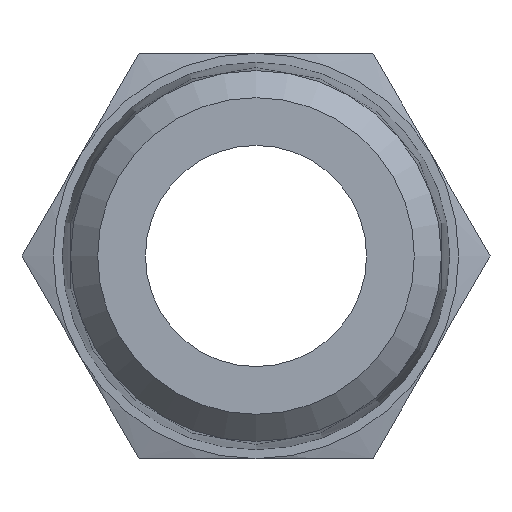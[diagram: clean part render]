
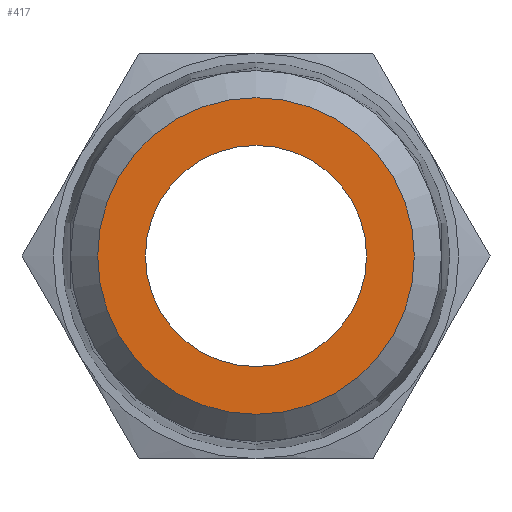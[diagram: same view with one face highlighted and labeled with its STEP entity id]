
A CAD part, left-side view. The second image highlights one B-rep face of the part: STEP entity #417.
In plain terms, the highlighted planar face has unit normal (-1, 0, 0).
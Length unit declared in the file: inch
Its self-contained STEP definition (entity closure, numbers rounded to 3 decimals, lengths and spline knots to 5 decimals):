
#37=PLANE('',#472);
#57=CIRCLE('',#473,0.26842);
#58=CIRCLE('',#474,0.1875);
#102=ORIENTED_EDGE('',*,*,#212,.F.);
#103=ORIENTED_EDGE('',*,*,#213,.T.);
#212=EDGE_CURVE('',#259,#259,#57,.T.);
#213=EDGE_CURVE('',#260,#260,#58,.T.);
#259=VERTEX_POINT('',#756);
#260=VERTEX_POINT('',#758);
#308=EDGE_LOOP('',(#102));
#309=EDGE_LOOP('',(#103));
#354=FACE_BOUND('',#308,.T.);
#355=FACE_BOUND('',#309,.T.);
#417=ADVANCED_FACE('',(#354,#355),#37,.F.);
#472=AXIS2_PLACEMENT_3D('',#754,#551,#552);
#473=AXIS2_PLACEMENT_3D('',#755,#553,#554);
#474=AXIS2_PLACEMENT_3D('',#757,#555,#556);
#551=DIRECTION('',(1.,0.,0.));
#552=DIRECTION('',(0.,0.,-1.));
#553=DIRECTION('',(1.,0.,0.));
#554=DIRECTION('',(0.,0.,-1.));
#555=DIRECTION('',(1.,0.,0.));
#556=DIRECTION('',(0.,0.,-1.));
#754=CARTESIAN_POINT('',(0.,0.,0.));
#755=CARTESIAN_POINT('',(0.,0.,0.));
#756=CARTESIAN_POINT('',(0.,0.,-0.26842));
#757=CARTESIAN_POINT('',(0.,0.,0.));
#758=CARTESIAN_POINT('',(0.,0.,-0.1875));
